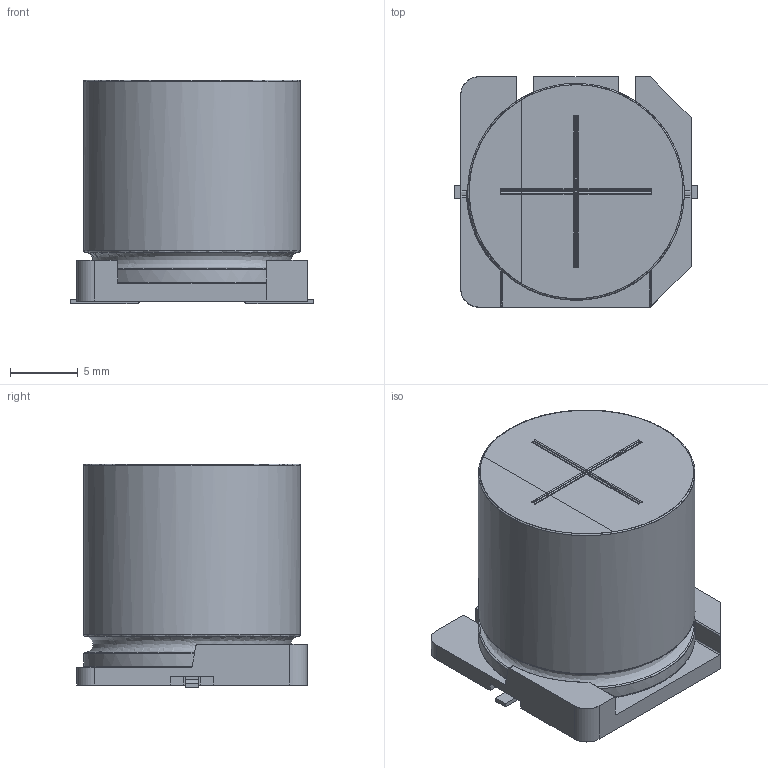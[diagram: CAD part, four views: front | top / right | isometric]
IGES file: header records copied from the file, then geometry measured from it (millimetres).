
Start section: JAMA-IS VERSION  1.0
Bounding box: 18 x 17 x 16.5 mm (x, y, z)
Surface area: 2018.1 mm2 (no closed solid volume)
Topology: 0 solids, 0 shells, 146 faces, 1363 edges, 1340 vertices
Faces by surface type: bspline 146
